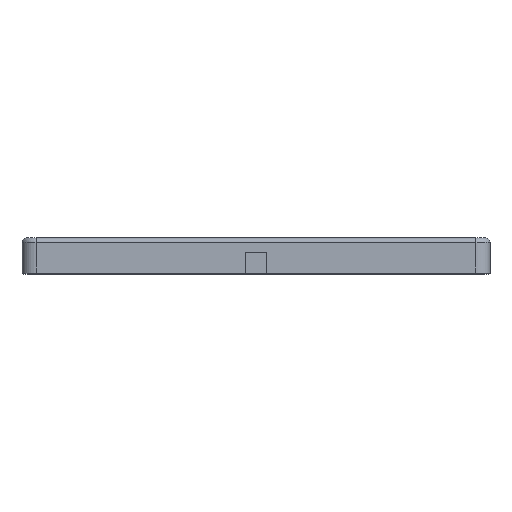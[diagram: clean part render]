
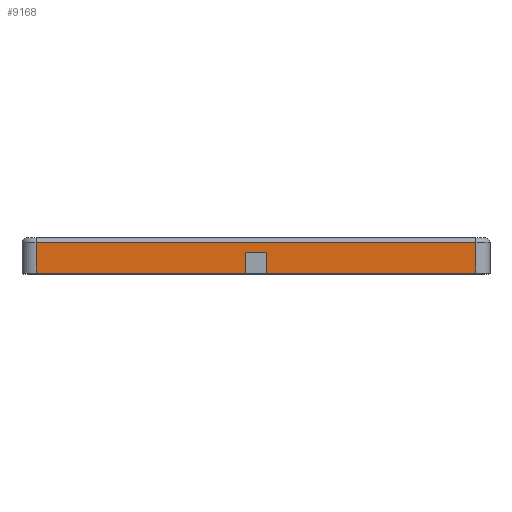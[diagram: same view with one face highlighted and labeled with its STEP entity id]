
A CAD part, top view. The second image highlights one B-rep face of the part: STEP entity #9168.
In plain terms, the highlighted planar face has unit normal (0, 0, 1).
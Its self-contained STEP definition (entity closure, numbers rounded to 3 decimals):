
#46 = CARTESIAN_POINT ( 'NONE',  ( -2.25, 4.5, 57.5 ) ) ;
#226 = LINE ( 'NONE', #1711, #6763 ) ;
#239 = VERTEX_POINT ( 'NONE', #9422 ) ;
#291 = LINE ( 'NONE', #5487, #4457 ) ;
#372 = EDGE_LOOP ( 'NONE', ( #6192, #4613, #648, #1079, #2168, #9159, #8106, #6592 ) ) ;
#373 = VECTOR ( 'NONE', #4466, 1000. ) ;
#409 = LINE ( 'NONE', #4830, #3595 ) ;
#648 = ORIENTED_EDGE ( 'NONE', *, *, #1111, .F. ) ;
#785 = VERTEX_POINT ( 'NONE', #5465 ) ;
#1079 = ORIENTED_EDGE ( 'NONE', *, *, #4174, .F. ) ;
#1111 = EDGE_CURVE ( 'NONE', #3577, #1326, #2612, .T. ) ;
#1158 = CARTESIAN_POINT ( 'NONE',  ( -47., 6.5, 57.5 ) ) ;
#1326 = VERTEX_POINT ( 'NONE', #46 ) ;
#1457 = VECTOR ( 'NONE', #5391, 1000. ) ;
#1518 = CARTESIAN_POINT ( 'NONE',  ( 2.25, 0., 57.5 ) ) ;
#1711 = CARTESIAN_POINT ( 'NONE',  ( -47., 6.5, 57.5 ) ) ;
#1789 = VERTEX_POINT ( 'NONE', #1158 ) ;
#1883 = VECTOR ( 'NONE', #5276, 1000. ) ;
#1989 = DIRECTION ( 'NONE',  ( 0., -1., 0. ) ) ;
#2168 = ORIENTED_EDGE ( 'NONE', *, *, #3094, .T. ) ;
#2182 = CARTESIAN_POINT ( 'NONE',  ( 2.25, 0., 57.5 ) ) ;
#2270 = DIRECTION ( 'NONE',  ( 0., 0., -1. ) ) ;
#2453 = CARTESIAN_POINT ( 'NONE',  ( -47., 0., 57.5 ) ) ;
#2469 = CARTESIAN_POINT ( 'NONE',  ( -47., 0., 57.5 ) ) ;
#2612 = LINE ( 'NONE', #4127, #5161 ) ;
#2662 = VERTEX_POINT ( 'NONE', #2469 ) ;
#2720 = CARTESIAN_POINT ( 'NONE',  ( -2.25, 0., 57.5 ) ) ;
#3073 = CARTESIAN_POINT ( 'NONE',  ( 47., 7.5, 57.5 ) ) ;
#3094 = EDGE_CURVE ( 'NONE', #8547, #785, #291, .T. ) ;
#3548 = EDGE_CURVE ( 'NONE', #1789, #2662, #409, .T. ) ;
#3577 = VERTEX_POINT ( 'NONE', #7206 ) ;
#3595 = VECTOR ( 'NONE', #1989, 1000. ) ;
#4127 = CARTESIAN_POINT ( 'NONE',  ( -2.25, 4.5, 57.5 ) ) ;
#4174 = EDGE_CURVE ( 'NONE', #8547, #3577, #7541, .T. ) ;
#4457 = VECTOR ( 'NONE', #6903, 1000. ) ;
#4466 = DIRECTION ( 'NONE',  ( 0., 1., 0. ) ) ;
#4542 = LINE ( 'NONE', #3073, #1883 ) ;
#4613 = ORIENTED_EDGE ( 'NONE', *, *, #5395, .F. ) ;
#4830 = CARTESIAN_POINT ( 'NONE',  ( -47., 7.5, 57.5 ) ) ;
#5027 = EDGE_CURVE ( 'NONE', #239, #785, #4542, .T. ) ;
#5161 = VECTOR ( 'NONE', #5641, 1000. ) ;
#5238 = VERTEX_POINT ( 'NONE', #2720 ) ;
#5254 = DIRECTION ( 'NONE',  ( -1., 0., 0. ) ) ;
#5276 = DIRECTION ( 'NONE',  ( 0., -1., 0. ) ) ;
#5391 = DIRECTION ( 'NONE',  ( 1., 0., 0. ) ) ;
#5395 = EDGE_CURVE ( 'NONE', #1326, #5238, #8237, .T. ) ;
#5465 = CARTESIAN_POINT ( 'NONE',  ( 47., 0., 57.5 ) ) ;
#5487 = CARTESIAN_POINT ( 'NONE',  ( -47., 0., 57.5 ) ) ;
#5641 = DIRECTION ( 'NONE',  ( -1., 0., 0. ) ) ;
#5934 = CARTESIAN_POINT ( 'NONE',  ( -47., 7.5, 57.5 ) ) ;
#5983 = PLANE ( 'NONE',  #9021 ) ;
#6123 = DIRECTION ( 'NONE',  ( -1., 0., 0. ) ) ;
#6192 = ORIENTED_EDGE ( 'NONE', *, *, #6219, .T. ) ;
#6219 = EDGE_CURVE ( 'NONE', #2662, #5238, #7631, .T. ) ;
#6592 = ORIENTED_EDGE ( 'NONE', *, *, #3548, .T. ) ;
#6706 = FACE_OUTER_BOUND ( 'NONE', #372, .T. ) ;
#6763 = VECTOR ( 'NONE', #6123, 1000. ) ;
#6903 = DIRECTION ( 'NONE',  ( 1., 0., 0. ) ) ;
#7206 = CARTESIAN_POINT ( 'NONE',  ( 2.25, 4.5, 57.5 ) ) ;
#7442 = DIRECTION ( 'NONE',  ( 0., -1., 0. ) ) ;
#7541 = LINE ( 'NONE', #1518, #373 ) ;
#7631 = LINE ( 'NONE', #2453, #1457 ) ;
#7637 = CARTESIAN_POINT ( 'NONE',  ( -2.25, 0., 57.5 ) ) ;
#7881 = EDGE_CURVE ( 'NONE', #239, #1789, #226, .T. ) ;
#8106 = ORIENTED_EDGE ( 'NONE', *, *, #7881, .T. ) ;
#8237 = LINE ( 'NONE', #7637, #8632 ) ;
#8547 = VERTEX_POINT ( 'NONE', #2182 ) ;
#8632 = VECTOR ( 'NONE', #7442, 1000. ) ;
#9021 = AXIS2_PLACEMENT_3D ( 'NONE', #5934, #2270, #5254 ) ;
#9159 = ORIENTED_EDGE ( 'NONE', *, *, #5027, .F. ) ;
#9168 = ADVANCED_FACE ( 'NONE', ( #6706 ), #5983, .F. ) ;
#9422 = CARTESIAN_POINT ( 'NONE',  ( 47., 6.5, 57.5 ) ) ;
